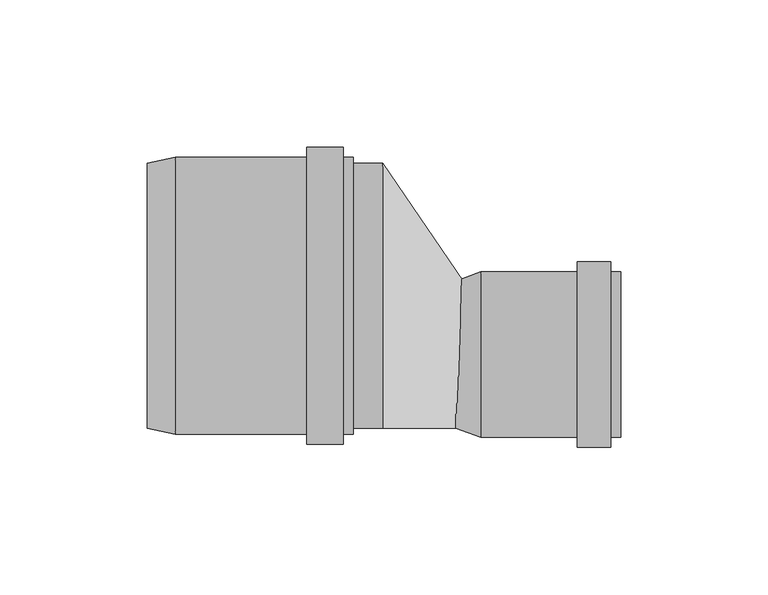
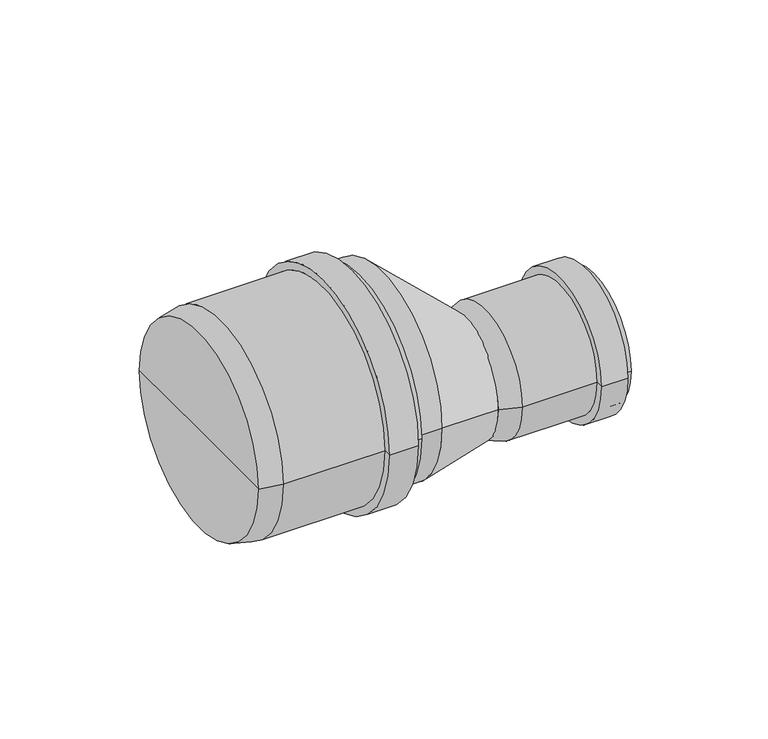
"""IFC4 building model written with IfcOpenShell, lengths in millimetres: pipe fitting geometry, pf_HTR_red-nes-dlouha : pf_HTR_red-nes-dlouha."""

from ifc_helpers import new_model, si_unit, point, frame, origin, origin_2d, place, context, project, spatial, polyline, circle_curve, trimmed, segment, composite_curve, outline, extrude, source, transform, mapped, element, save
from ifc_brep_helpers import plane_surface, cylinder_surface, revolved_surface, spline_surface, advanced_brep


def pipe_fitting_fa9bb480(model_context):
    return source(origin(), model_context, "Body", "SolidModel", [
        advanced_brep(
        [(-80.0, -45.0, 0.0), (-80.0, 45.0, 0.0), (-70.5, 47.0, 0.0), (-70.5, -47.0, 0.0), (-80.0, 0.0, 0.0), (-10.0, -47.0, 0.0), (-10.0, 47.0, 0.0), (-10.0, 0.0, 0.0), (-13.4, -47.0, 0.0), (-13.4, 47.0, 0.0), (-13.4, -50.4, 0.0), (-13.4, 50.4, 0.0), (-25.9, -50.4, 0.0), (-25.9, 50.4, 0.0), (-25.9, -47.0, 0.0), (-25.9, 47.0, 0.0)],
        [
            (0, 1, circle_curve(frame((-80.0, 0.0, 0.0), z_axis=(1.0, 0.0, 0.0), x_axis=(0.0, 1.0, 0.0)), 45.0)),
            (1, 2),
            (2, 3, circle_curve(frame((-70.5, 0.0, 0.0), z_axis=(-1.0, 0.0, 0.0), x_axis=(0.0, 1.0, 0.0)), 47.0)),
            (3, 0),
            (1, 0, circle_curve(frame((-80.0, 0.0, 0.0), z_axis=(1.0, 0.0, 0.0), x_axis=(0.0, 1.0, 0.0)), 45.0)),
            (3, 2, circle_curve(frame((-70.5, 0.0, 0.0), z_axis=(-1.0, 0.0, 0.0), x_axis=(0.0, 1.0, 0.0)), 47.0)),
            (4, 1),
            (0, 4),
            (5, 6, circle_curve(frame((-10.0, 0.0, 0.0), z_axis=(1.0, 0.0, 0.0), x_axis=(0.0, 1.0, 0.0)), 47.0)),
            (6, 7),
            (7, 5),
            (6, 5, circle_curve(frame((-10.0, 0.0, 0.0), z_axis=(1.0, 0.0, 0.0), x_axis=(0.0, 1.0, 0.0)), 47.0)),
            (8, 9, circle_curve(frame((-13.4, 0.0, 0.0), z_axis=(1.0, 0.0, 0.0), x_axis=(0.0, 1.0, 0.0)), 47.0)),
            (9, 6),
            (5, 8),
            (9, 8, circle_curve(frame((-13.4, 0.0, 0.0), z_axis=(1.0, 0.0, 0.0), x_axis=(0.0, 1.0, 0.0)), 47.0)),
            (10, 11, circle_curve(frame((-13.4, 0.0, 0.0), z_axis=(1.0, 0.0, 0.0), x_axis=(0.0, 1.0, 0.0)), 50.4)),
            (11, 9),
            (8, 10),
            (11, 10, circle_curve(frame((-13.4, 0.0, 0.0), z_axis=(1.0, 0.0, 0.0), x_axis=(0.0, 1.0, 0.0)), 50.4)),
            (12, 13, circle_curve(frame((-25.9, 0.0, 0.0), z_axis=(1.0, 0.0, 0.0), x_axis=(0.0, 1.0, 0.0)), 50.4)),
            (13, 11),
            (10, 12),
            (13, 12, circle_curve(frame((-25.9, 0.0, 0.0), z_axis=(1.0, 0.0, 0.0), x_axis=(0.0, 1.0, 0.0)), 50.4)),
            (14, 15, circle_curve(frame((-25.9, 0.0, 0.0), z_axis=(1.0, 0.0, 0.0), x_axis=(0.0, 1.0, 0.0)), 47.0)),
            (15, 13),
            (12, 14),
            (15, 14, circle_curve(frame((-25.9, 0.0, 0.0), z_axis=(1.0, 0.0, 0.0), x_axis=(0.0, 1.0, 0.0)), 47.0)),
            (2, 15),
            (14, 3),
        ],
        [
            revolved_surface(polyline([(-70.5, 47.0, 0.0), (-80.0, 45.0, 0.0)]), (-80.0, 0.0, 0.0), (-1.0, 0.0, 0.0)),
            plane_surface(frame((-80.0, 0.0, 0.0), z_axis=(-1.0, 0.0, 0.0), x_axis=(0.0, 1.0, 0.0))),
            plane_surface(frame((-10.0, 0.0, 0.0), z_axis=(1.0, 0.0, 0.0), x_axis=(0.0, 1.0, 0.0))),
            cylinder_surface(frame((-80.0, 0.0, 0.0), z_axis=(-1.0, 0.0, 0.0), x_axis=(0.0, 1.0, 0.0)), 47.0),
            plane_surface(frame((-13.4, 0.0, 0.0), z_axis=(1.0, 0.0, 0.0), x_axis=(0.0, 1.0, 0.0))),
            cylinder_surface(frame((-80.0, 0.0, 0.0), z_axis=(-1.0, 0.0, 0.0), x_axis=(0.0, 1.0, 0.0)), 50.4),
            plane_surface(frame((-25.9, 0.0, 0.0), z_axis=(-1.0, 0.0, 0.0), x_axis=(0.0, 1.0, 0.0))),
        ],
        [
            (0, [[1, 2, 3, 4]]),
            (0, [[5, -4, 6, -2]]),
            (1, [[7, -1, 8]]),
            (1, [[-8, -5, -7]]),
            (2, [[9, 10, 11]]),
            (2, [[12, -11, -10]]),
            (3, [[13, 14, -9, 15]]),
            (3, [[16, -15, -12, -14]]),
            (4, [[17, 18, -13, 19]]),
            (4, [[20, -19, -16, -18]]),
            (5, [[21, 22, -17, 23]]),
            (5, [[24, -23, -20, -22]]),
            (6, [[25, 26, -21, 27]]),
            (6, [[28, -27, -24, -26]]),
            (3, [[-3, 29, -25, 30]]),
            (3, [[-6, -30, -28, -29]]),
        ],
    ),
        advanced_brep(
        [(24.75, -45.0, 0.0), (24.75, 5.0, 0.0), (33.25, 8.1, 0.0), (33.25, -48.1, 0.0), (24.75, -20.0, 0.0), (80.75, -48.1, 0.0), (80.75, 8.1, 0.0), (80.75, -20.0, 0.0), (77.35, -48.1, 0.0), (77.35, 8.1, 0.0), (77.35, -51.5, 0.0), (77.35, 11.5, 0.0), (65.95, -51.5, 0.0), (65.95, 11.5, 0.0), (65.95, -48.1, 0.0), (65.95, 8.1, 0.0)],
        [
            (0, 1, circle_curve(frame((24.75, -20.0, 0.0), z_axis=(1.0, 0.0, 0.0), x_axis=(0.0, 1.0, 0.0)), 25.0)),
            (1, 2),
            (2, 3, circle_curve(frame((33.25, -20.0, 0.0), z_axis=(-1.0, 0.0, 0.0), x_axis=(0.0, 1.0, 0.0)), 28.1)),
            (3, 0),
            (1, 0, circle_curve(frame((24.75, -20.0, 0.0), z_axis=(1.0, 0.0, 0.0), x_axis=(0.0, 1.0, 0.0)), 25.0)),
            (3, 2, circle_curve(frame((33.25, -20.0, 0.0), z_axis=(-1.0, 0.0, 0.0), x_axis=(0.0, 1.0, 0.0)), 28.1)),
            (4, 1),
            (0, 4),
            (5, 6, circle_curve(frame((80.75, -20.0, 0.0), z_axis=(1.0, 0.0, 0.0), x_axis=(0.0, 1.0, 0.0)), 28.1)),
            (6, 7),
            (7, 5),
            (6, 5, circle_curve(frame((80.75, -20.0, 0.0), z_axis=(1.0, 0.0, 0.0), x_axis=(0.0, 1.0, 0.0)), 28.1)),
            (8, 9, circle_curve(frame((77.35, -20.0, 0.0), z_axis=(1.0, 0.0, 0.0), x_axis=(0.0, 1.0, 0.0)), 28.1)),
            (9, 6),
            (5, 8),
            (9, 8, circle_curve(frame((77.35, -20.0, 0.0), z_axis=(1.0, 0.0, 0.0), x_axis=(0.0, 1.0, 0.0)), 28.1)),
            (10, 11, circle_curve(frame((77.35, -20.0, 0.0), z_axis=(1.0, 0.0, 0.0), x_axis=(0.0, 1.0, 0.0)), 31.5)),
            (11, 9),
            (8, 10),
            (11, 10, circle_curve(frame((77.35, -20.0, 0.0), z_axis=(1.0, 0.0, 0.0), x_axis=(0.0, 1.0, 0.0)), 31.5)),
            (12, 13, circle_curve(frame((65.95, -20.0, 0.0), z_axis=(1.0, 0.0, 0.0), x_axis=(0.0, 1.0, 0.0)), 31.5)),
            (13, 11),
            (10, 12),
            (13, 12, circle_curve(frame((65.95, -20.0, 0.0), z_axis=(1.0, 0.0, 0.0), x_axis=(0.0, 1.0, 0.0)), 31.5)),
            (14, 15, circle_curve(frame((65.95, -20.0, 0.0), z_axis=(1.0, 0.0, 0.0), x_axis=(0.0, 1.0, 0.0)), 28.1)),
            (15, 13),
            (12, 14),
            (15, 14, circle_curve(frame((65.95, -20.0, 0.0), z_axis=(1.0, 0.0, 0.0), x_axis=(0.0, 1.0, 0.0)), 28.1)),
            (2, 15),
            (14, 3),
        ],
        [
            revolved_surface(polyline([(33.25, 8.1, 0.0), (24.75, 5.0, 0.0)]), (24.75, -20.0, 0.0), (-1.0, 0.0, 0.0)),
            plane_surface(frame((24.75, -20.0, 0.0), z_axis=(-1.0, 0.0, 0.0), x_axis=(0.0, 1.0, 0.0))),
            plane_surface(frame((80.75, -20.0, 0.0), z_axis=(1.0, 0.0, 0.0), x_axis=(0.0, 1.0, 0.0))),
            cylinder_surface(frame((24.75, -20.0, 0.0), z_axis=(-1.0, 0.0, 0.0), x_axis=(0.0, 1.0, 0.0)), 28.1),
            plane_surface(frame((77.35, -20.0, 0.0), z_axis=(1.0, 0.0, 0.0), x_axis=(0.0, 1.0, 0.0))),
            cylinder_surface(frame((24.75, -20.0, 0.0), z_axis=(-1.0, 0.0, 0.0), x_axis=(0.0, 1.0, 0.0)), 31.5),
            plane_surface(frame((65.95, -20.0, 0.0), z_axis=(-1.0, 0.0, 0.0), x_axis=(0.0, 1.0, 0.0))),
        ],
        [
            (0, [[1, 2, 3, 4]]),
            (0, [[5, -4, 6, -2]]),
            (1, [[7, -1, 8]]),
            (1, [[-8, -5, -7]]),
            (2, [[9, 10, 11]]),
            (2, [[12, -11, -10]]),
            (3, [[13, 14, -9, 15]]),
            (3, [[16, -15, -12, -14]]),
            (4, [[17, 18, -13, 19]]),
            (4, [[20, -19, -16, -18]]),
            (5, [[21, 22, -17, 23]]),
            (5, [[24, -23, -20, -22]]),
            (6, [[25, 26, -21, 27]]),
            (6, [[28, -27, -24, -26]]),
            (3, [[-3, 29, -25, 30]]),
            (3, [[-6, -30, -28, -29]]),
        ],
    ),
        extrude(outline(composite_curve([segment(trimmed(circle_curve(origin_2d(), 45.0), [point((-45.0, 0.0))], [point((45.0, 0.0))], False, "CARTESIAN"), True, "CONTINUOUS"), segment(trimmed(circle_curve(origin_2d(), 45.0), [point((45.0, 0.0))], [point((-45.0, 0.0))], False, "CARTESIAN"), True, "CONTINUOUS")], self_intersect=False)), frame((-10.0, 0.0, 0.0), z_axis=(1.0, 0.0, 0.0), x_axis=(0.0, 1.0, 0.0)), (0.0, 0.0, 1.0), 10.0),
        advanced_brep(
        [(27.25, -45.0, 0.0), (27.25, 5.0, 0.0), (0.0, -45.0, 0.0), (0.0, 45.0, 0.0)],
        [
            (0, 1, circle_curve(frame((27.25, -20.0, 0.0), z_axis=(1.0, 0.0, 0.0), x_axis=(0.0, 1.0, 0.0)), 25.0)),
            (1, 0, circle_curve(frame((27.25, -20.0, 0.0), z_axis=(1.0, 0.0, 0.0), x_axis=(0.0, 1.0, 0.0)), 25.0)),
            (2, 3, circle_curve(frame((0.0, 0.0, 0.0), z_axis=(-1.0, 0.0, 0.0), x_axis=(0.0, 1.0, 0.0)), 45.0)),
            (3, 2, circle_curve(frame((0.0, 0.0, 0.0), z_axis=(-1.0, 0.0, 0.0), x_axis=(0.0, 1.0, 0.0)), 45.0)),
            (3, 1),
            (0, 2),
        ],
        [
            plane_surface(frame((27.25, -20.0, 0.0), z_axis=(1.0, 0.0, 0.0), x_axis=(0.0, 0.0, -1.0))),
            plane_surface(frame((0.0, 0.0, 0.0), z_axis=(-1.0, 0.0, 0.0), x_axis=(0.0, 0.0, -1.0))),
            spline_surface(2, 1, [[(0.0, -45.0, 0.0), (27.25, -45.0, 0.0)], [(0.0, -45.0, -45.0), (27.25, -45.0, -25.0)], [(0.0, 0.0, -45.0), (27.25, -20.0, -25.0)], [(0.0, 45.0, -45.0), (27.25, 5.0, -25.0)], [(0.0, 45.0, 0.0), (27.25, 5.0, 0.0)]], [3, 2, 3], [2, 2], [0.0, 1.0, 2.0], [0.0, 1.0], weights=[[1.0, 1.0], [0.7071067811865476, 0.7071067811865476], [1.0, 1.0], [0.7071067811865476, 0.7071067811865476], [1.0, 1.0]]),
            spline_surface(2, 1, [[(0.0, 45.0, 0.0), (27.25, 5.0, 0.0)], [(0.0, 45.0, 45.0), (27.25, 5.0, 25.0)], [(0.0, 0.0, 45.0), (27.25, -20.0, 25.0)], [(0.0, -45.0, 45.0), (27.25, -45.0, 25.0)], [(0.0, -45.0, 0.0), (27.25, -45.0, 0.0)]], [3, 2, 3], [2, 2], [0.0, 1.0, 2.0], [0.0, 1.0], weights=[[1.0, 1.0], [0.7071067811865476, 0.7071067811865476], [1.0, 1.0], [0.7071067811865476, 0.7071067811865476], [1.0, 1.0]]),
        ],
        [
            (0, [[1, 2]]),
            (1, [[3, 4]]),
            (2, [[-4, 5, -1, 6]]),
            (3, [[-3, -6, -2, -5]]),
        ],
    ),
    ])


if __name__ == "__main__":
    model = new_model("IFC4")
    model_context = context("Model", 3, world=origin())
    ifc_project = project(units=[si_unit("LENGTHUNIT", "METRE", prefix="MILLI")], contexts=[model_context])
    site = spatial("IfcSite", under=ifc_project)
    building = spatial("IfcBuilding", under=site)
    placement = place(None, origin())
    pipe_fitting_shape = pipe_fitting_fa9bb480(model_context)
    element("IfcPipeFitting", 1, ObjectType="pf_HTR_red-nes-dlouha : pf_HTR_red-nes-dlouha", at=placement, inside=building, context=model_context, shape_type="MappedRepresentation", body=[
        mapped(pipe_fitting_shape, transform((0.0, 0.0, 0.0), x_axis=(1.0, 0.0, 0.0), y_axis=(0.0, 1.0, 0.0), z_axis=(0.0, 0.0, 1.0))),
    ])
    save(model, "model.ifc")
